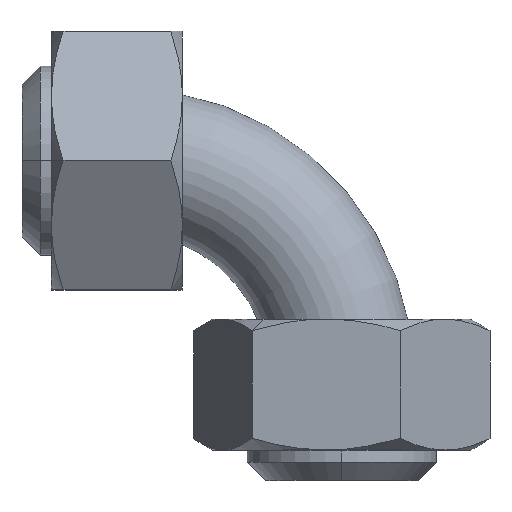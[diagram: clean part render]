
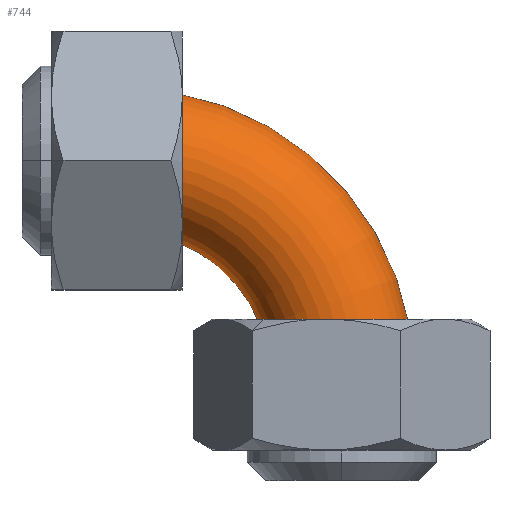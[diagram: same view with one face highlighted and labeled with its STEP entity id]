
A CAD part, top view. The second image highlights one B-rep face of the part: STEP entity #744.
In plain terms, the highlighted toroidal (fillet/blend) face has major radius 38.1 mm and minor radius 12.7 mm.
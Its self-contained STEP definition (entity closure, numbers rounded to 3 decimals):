
#29 = VERTEX_POINT ( 'NONE', #953 ) ;
#40 = AXIS2_PLACEMENT_3D ( 'NONE', #980, #1959, #1894 ) ;
#142 = DIRECTION ( 'NONE',  ( 0., 0., 1. ) ) ;
#177 = CIRCLE ( 'NONE', #2713, 12.7 ) ;
#192 = CARTESIAN_POINT ( 'NONE',  ( 38.1, 0., 0. ) ) ;
#267 = EDGE_CURVE ( 'NONE', #1814, #29, #2355, .T. ) ;
#298 = AXIS2_PLACEMENT_3D ( 'NONE', #357, #1103, #1550 ) ;
#357 = CARTESIAN_POINT ( 'NONE',  ( 0., 0., 0. ) ) ;
#445 = AXIS2_PLACEMENT_3D ( 'NONE', #2519, #628, #142 ) ;
#628 = DIRECTION ( 'NONE',  ( -1., 0., 0. ) ) ;
#685 = CIRCLE ( 'NONE', #445, 12.7 ) ;
#744 = ADVANCED_FACE ( 'NONE', ( #2026 ), #2641, .T. ) ;
#781 = EDGE_CURVE ( 'NONE', #1897, #1814, #685, .T. ) ;
#863 = ORIENTED_EDGE ( 'NONE', *, *, #267, .F. ) ;
#918 = CIRCLE ( 'NONE', #40, 25.4 ) ;
#942 = AXIS2_PLACEMENT_3D ( 'NONE', #2222, #1325, #2495 ) ;
#953 = CARTESIAN_POINT ( 'NONE',  ( 50.8, 0., 0. ) ) ;
#980 = CARTESIAN_POINT ( 'NONE',  ( 0., 0., 0. ) ) ;
#1093 = CARTESIAN_POINT ( 'NONE',  ( 0., 25.4, 0. ) ) ;
#1103 = DIRECTION ( 'NONE',  ( 0., 0., -1. ) ) ;
#1325 = DIRECTION ( 'NONE',  ( 0., 0., -1. ) ) ;
#1326 = CARTESIAN_POINT ( 'NONE',  ( 25.4, 0., 0. ) ) ;
#1346 = EDGE_CURVE ( 'NONE', #1833, #29, #177, .T. ) ;
#1349 = DIRECTION ( 'NONE',  ( 0., 0., 1. ) ) ;
#1550 = DIRECTION ( 'NONE',  ( -1., 0., 0. ) ) ;
#1734 = EDGE_LOOP ( 'NONE', ( #863, #2805, #2743, #2865 ) ) ;
#1814 = VERTEX_POINT ( 'NONE', #2496 ) ;
#1833 = VERTEX_POINT ( 'NONE', #1326 ) ;
#1838 = DIRECTION ( 'NONE',  ( 0., 1., 0. ) ) ;
#1894 = DIRECTION ( 'NONE',  ( -1., 0., 0. ) ) ;
#1897 = VERTEX_POINT ( 'NONE', #1093 ) ;
#1959 = DIRECTION ( 'NONE',  ( 0., 0., -1. ) ) ;
#2026 = FACE_OUTER_BOUND ( 'NONE', #1734, .T. ) ;
#2222 = CARTESIAN_POINT ( 'NONE',  ( 0., 0., 0. ) ) ;
#2355 = CIRCLE ( 'NONE', #942, 50.8 ) ;
#2495 = DIRECTION ( 'NONE',  ( -1., 0., 0. ) ) ;
#2496 = CARTESIAN_POINT ( 'NONE',  ( 0., 50.8, 0. ) ) ;
#2519 = CARTESIAN_POINT ( 'NONE',  ( 0., 38.1, 0. ) ) ;
#2641 = TOROIDAL_SURFACE ( 'NONE', #298, 38.1, 12.7 ) ;
#2713 = AXIS2_PLACEMENT_3D ( 'NONE', #192, #1838, #1349 ) ;
#2743 = ORIENTED_EDGE ( 'NONE', *, *, #2979, .T. ) ;
#2805 = ORIENTED_EDGE ( 'NONE', *, *, #781, .F. ) ;
#2865 = ORIENTED_EDGE ( 'NONE', *, *, #1346, .T. ) ;
#2979 = EDGE_CURVE ( 'NONE', #1897, #1833, #918, .T. ) ;
